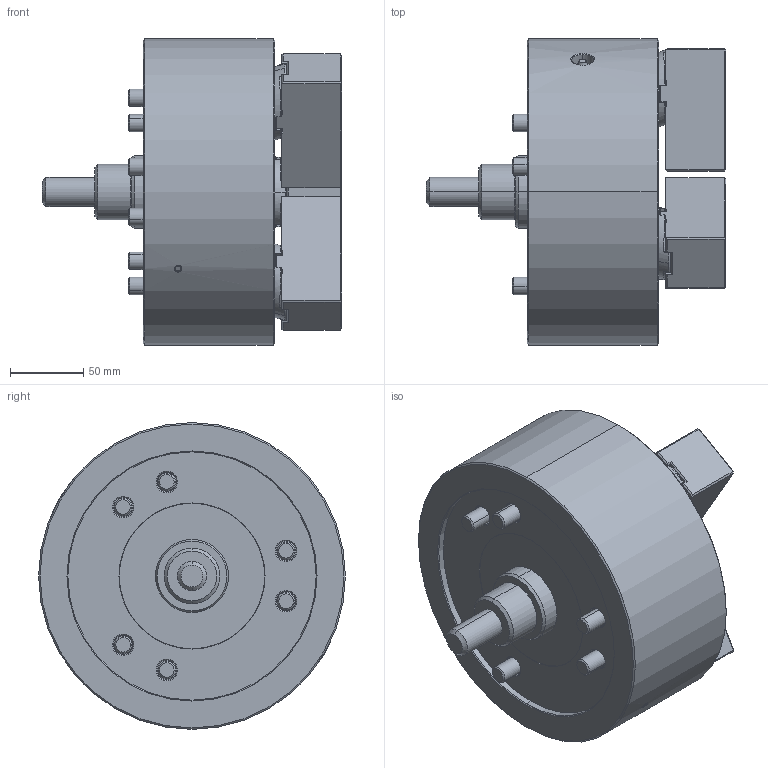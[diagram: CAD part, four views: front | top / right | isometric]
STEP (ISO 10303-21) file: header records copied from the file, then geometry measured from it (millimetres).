
FILE_DESCRIPTION (( 'STEP AP214' ), '1' );
FILE_NAME ('LU-08_OC.STEP', '2019-11-08T01:18:55', ( '' ), ( '' ), 'SwSTEP 2.0', 'SolidWorks 2017', '' );
FILE_SCHEMA (( 'AUTOMOTIVE_DESIGN' ));
Length unit declared in the file: millimetre
Products named in the file (4): 結合; 0030112025; 61P343325; LU-08_OC
Assembly tree (10 placements, depth 2):
  LU-08_OC
    61P343325  x3
    0030112025  x6
    結合
Bounding box: 205 x 210 x 210 mm (x, y, z)
Volume: 3384858.7 mm3; surface area: 287936.2 mm2
Topology: 10 solids, 11 shells, 1429 faces, 3488 edges, 2136 vertices
Faces by surface type: plane 790, cone 263, cylinder 197, bspline 147, torus 32
Entity records: 39920 total; most frequent: CARTESIAN_POINT 14642, ORIENTED_EDGE 5472, DIRECTION 4679, EDGE_CURVE 2736, VERTEX_POINT 1725, LINE 1633, VECTOR 1633, AXIS2_PLACEMENT_3D 1523
